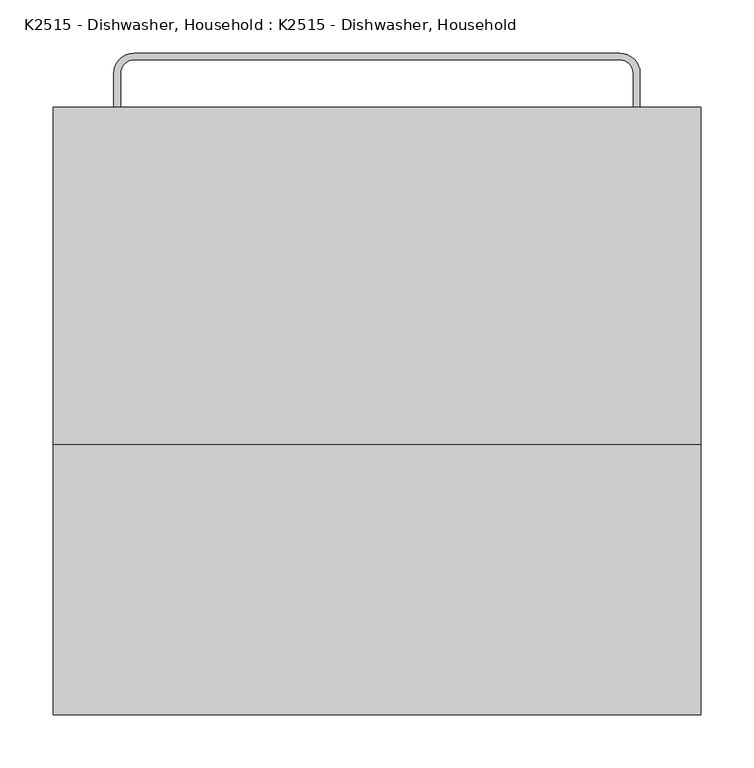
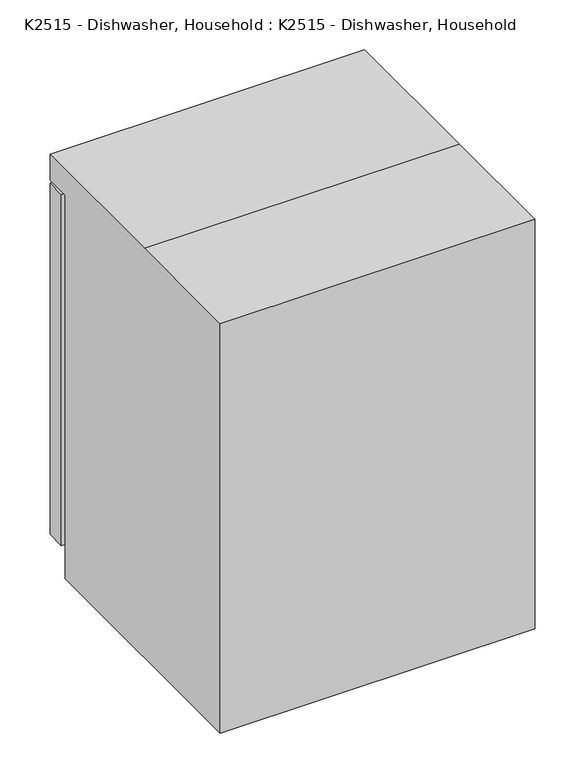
"""IFC4 building model written with IfcOpenShell, lengths in millimetres: proxy geometry, K2515 - Dishwasher, Household : K2515 - Dishwasher, Household."""

from ifc_helpers import new_model, si_unit, point, frame, frame_2d, origin, place, context, project, spatial, polyline, circle_curve, trimmed, segment, composite_curve, outline, extrude, source, transform, mapped, element, save


def k2515_dishwasher_household_k2515_dishwasher_household_46c228bc(model_context):
    return source(origin(), model_context, "Body", "SweptSolid", [
        extrude(outline(composite_curve([segment(polyline([(-247.65, 254.0), (-247.65, 285.75)]), True, "CONTINUOUS"), segment(trimmed(circle_curve(frame_2d((-228.6, 285.75)), 19.05), [point((-247.65, 285.75))], [point((-228.6, 304.8))], False, "CARTESIAN"), True, "CONTINUOUS"), segment(polyline([(-228.6, 304.8), (228.6, 304.8)]), True, "CONTINUOUS"), segment(trimmed(circle_curve(frame_2d((228.6, 285.75)), 19.05), [point((228.6, 304.8))], [point((247.65, 285.75))], False, "CARTESIAN"), True, "CONTINUOUS"), segment(polyline([(247.65, 285.75), (247.65, 254.0), (241.3, 254.0), (241.3, 285.75)]), True, "CONTINUOUS"), segment(trimmed(circle_curve(frame_2d((228.6, 285.75)), 12.7), [point((241.3, 285.75))], [point((228.6, 298.45))], True, "CARTESIAN"), True, "CONTINUOUS"), segment(polyline([(228.6, 298.45), (-228.6, 298.45)]), True, "CONTINUOUS"), segment(trimmed(circle_curve(frame_2d((-228.6, 285.75)), 12.7), [point((-228.6, 298.45))], [point((-241.3, 285.75))], True, "CARTESIAN"), True, "CONTINUOUS"), segment(polyline([(-241.3, 285.75), (-241.3, 254.0), (-247.65, 254.0)]), True, "CONTINUOUS")], self_intersect=False)), frame((0.0, 0.0, 685.8), z_axis=(0.0, 0.0, 1.0), x_axis=(1.0, 0.0, 0.0)), (0.0, 0.0, 1.0), 25.4),
        extrude(outline(polyline([(292.1, 203.2), (-292.4220728, 203.2), (-292.4220728, 215.9), (292.1, 215.9), (292.1, 203.2)])), frame((0.0, 0.0, 72.8928444), z_axis=(0.0, 0.0, 1.0), x_axis=(1.0, 0.0, 0.0)), (0.0, 0.0, 1.0), 691.4472963),
        extrude(outline(polyline([(254.0, 838.2), (254.0, 785.0736181), (203.2, 785.0736181), (203.2, 0.0), (-317.5, 0.0), (-317.5, 838.2), (-63.5, 838.2), (254.0, 838.2)])), frame((-304.8, 0.0, 0.0), z_axis=(1.0, 0.0, 0.0), x_axis=(0.0, 1.0, 0.0)), (0.0, 0.0, 1.0), 609.6),
        extrude(outline(polyline([(304.8, 254.0), (304.8, 215.9), (-304.8, 215.9), (-304.8, 254.0), (304.8, 254.0)])), frame((0.0, 0.0, 60.2898187), z_axis=(0.0, 0.0, 1.0), x_axis=(1.0, 0.0, 0.0)), (0.0, 0.0, 1.0), 718.4337993),
    ])


if __name__ == "__main__":
    model = new_model("IFC4")
    model_context = context("Model", 3, world=origin())
    ifc_project = project(units=[si_unit("LENGTHUNIT", "METRE", prefix="MILLI")], contexts=[model_context])
    site = spatial("IfcSite", under=ifc_project)
    building = spatial("IfcBuilding", under=site)
    placement = place(None, origin())
    k2515_dishwasher_household_k2515_dishwasher_household_shape = k2515_dishwasher_household_k2515_dishwasher_household_46c228bc(model_context)
    element("IfcBuildingElementProxy", 1, Name="K2515 - Dishwasher, Household : K2515 - Dishwasher, Household", ObjectType="K2515 - Dishwasher, Household : K2515 - Dishwasher, Household", at=placement, inside=building, context=model_context, shape_type="MappedRepresentation", body=[
        mapped(k2515_dishwasher_household_k2515_dishwasher_household_shape, transform((0.0, 0.0, 0.0), x_axis=(1.0, 0.0, 0.0), y_axis=(0.0, 1.0, 0.0), z_axis=(0.0, 0.0, 1.0))),
    ])
    save(model, "model.ifc")
